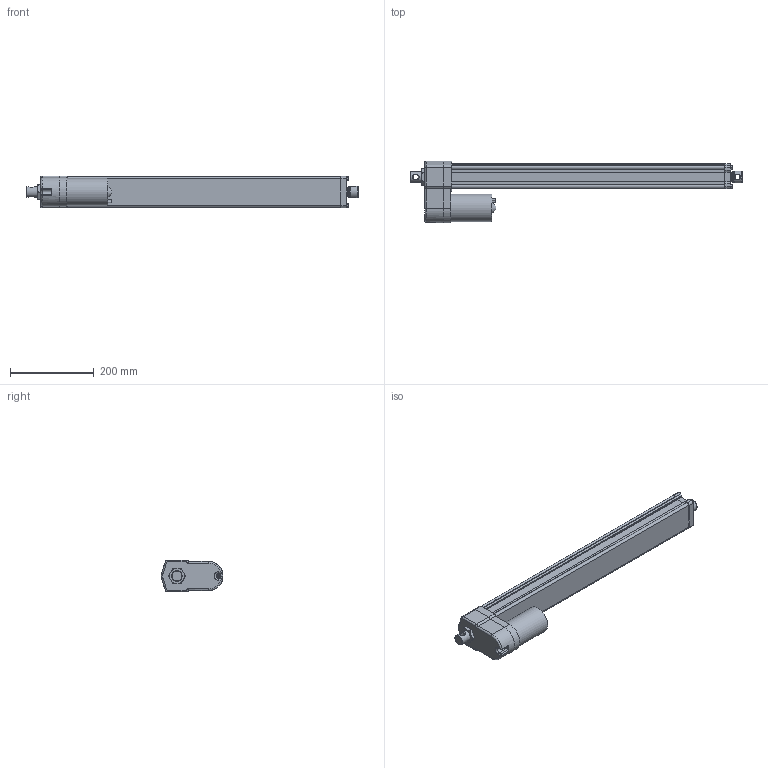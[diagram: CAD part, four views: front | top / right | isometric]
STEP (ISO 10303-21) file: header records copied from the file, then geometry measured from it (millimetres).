
FILE_DESCRIPTION( ( 'STEP AP203' ), '1' );
FILE_NAME( 'p:/temp/worker_517/temp/exporttempdir_4360_969_a60b0/format_0/DA12-21B65M50M0N-AMM.stp', '2020-04-12T13:25:02', ( 'License CC BY-ND 4.0' ), ( 'CADENAS' ), ' ', 'PARTsolutions', ' ' );
FILE_SCHEMA( ( 'CONFIG_CONTROL_DESIGN' ) );
Length unit declared in the file: millimetre
Products named in the file (8): DA12-21B65M50M0N-AMM; _ELECTRAK-LA14-DA12-21B65MM0N-50M-EU-REAR; _Electrak-10-EU-RA-D602700; _D602768eu; _ELECTRAK-LA14-DA12--MOTOR; _DA12-21B65M50M0NAMMtube; _ELECTRAK-LA14-DA12--50-PLATE; _ELECTRAK-LA14-DA12--5021B65MNM-ROD
Assembly tree (7 placements, depth 2):
  DA12-21B65M50M0N-AMM
    _ELECTRAK-LA14-DA12-21B65MM0N-50M-EU-REAR
    _Electrak-10-EU-RA-D602700
    _D602768eu
    _ELECTRAK-LA14-DA12--MOTOR
    _DA12-21B65M50M0NAMMtube
    _ELECTRAK-LA14-DA12--50-PLATE
    _ELECTRAK-LA14-DA12--5021B65MNM-ROD
Bounding box: 793.95 x 148 x 76.2 mm (x, y, z)
Volume: 2097100.5 mm3; surface area: 607644 mm2
Topology: 7 solids, 8 shells, 378 faces, 942 edges, 610 vertices
Faces by surface type: plane 183, cylinder 131, cone 46, torus 14, bspline 4
Full cylindrical faces by diameter (mm): 4 x2, 4.126 x1, 4.8 x6, 5 x5, 5.6 x4, 7.878 x4, 9.398 x1, 12.2 x2, 16 x1, 21.8 x1, 25.2 x1, 25.4 x1, 26.24 x1, 28.5 x1, 28.6 x2, 47.625 x1, 65.3 x1
Entity records: 11834 total; most frequent: CARTESIAN_POINT 2729, DIRECTION 1869, ORIENTED_EDGE 1744, EDGE_CURVE 872, AXIS2_PLACEMENT_3D 702, VERTEX_POINT 602, EDGE_LOOP 485, LINE 465
